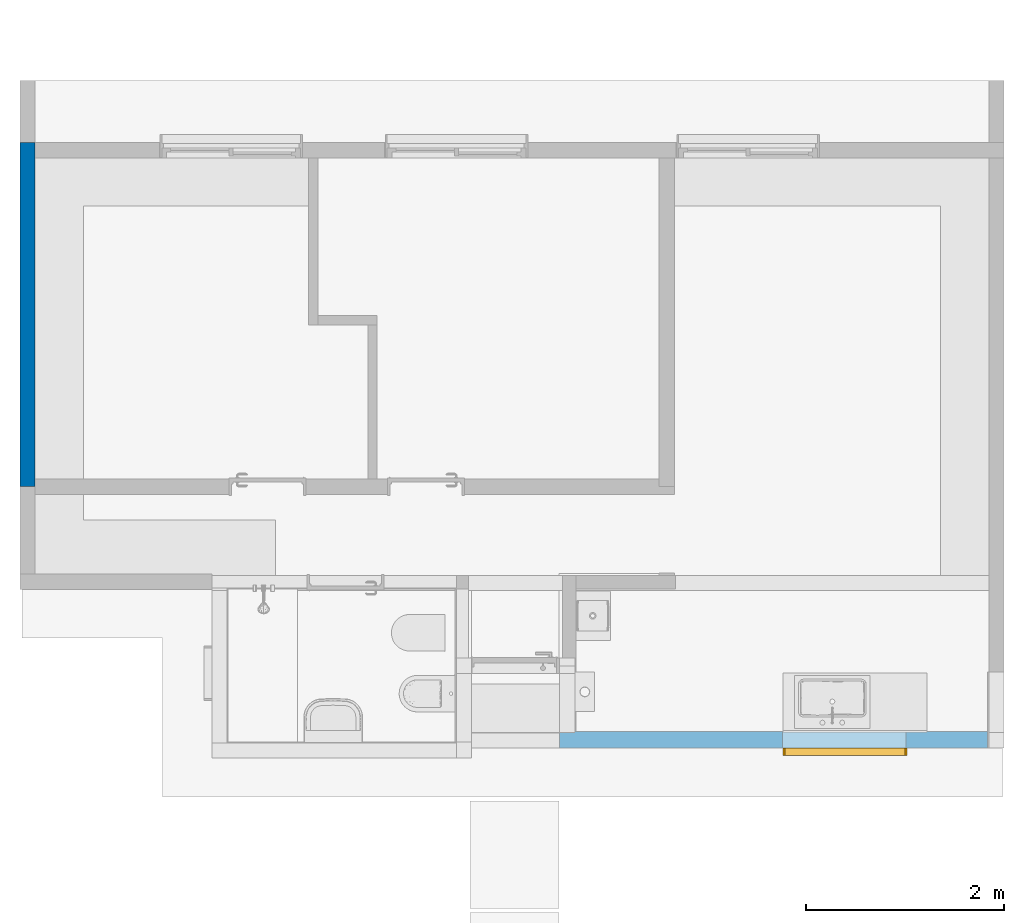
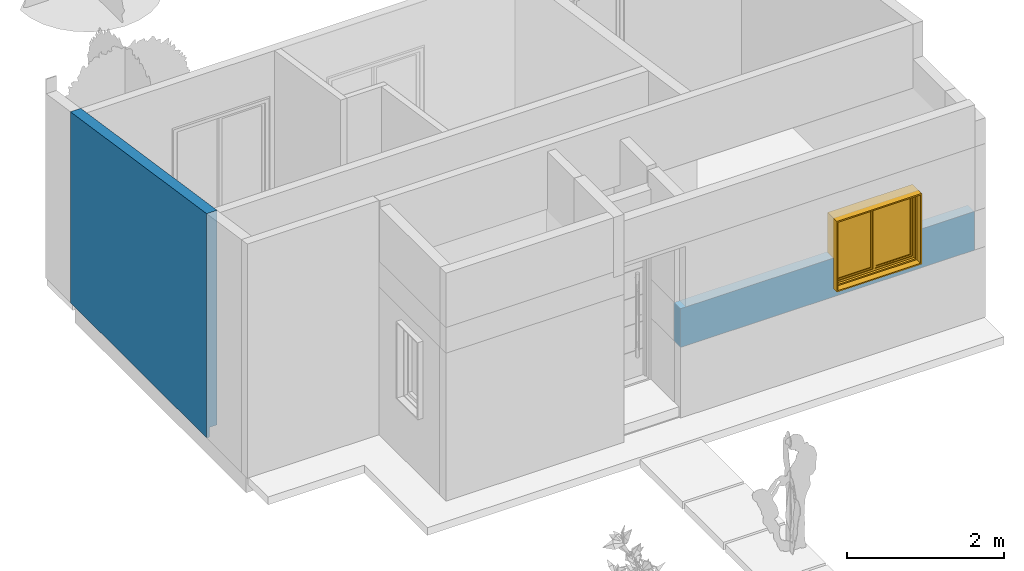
# One storey, part 4 of 8: 1 wall, 1 window, 1 opening, plus 1 element that does not belong to this part.
"""IFC2X3 building model written with IfcOpenShell, lengths in metres."""

from ifc_helpers import new_model, entity, si_unit, converted_unit, derived_unit, direction, frame, frame_2d, origin, place, context, subcontext, project, spatial, rectangle, extrude, faceted_brep, source, transform, mapped, material, material_list, layer, layer_set, layer_usage, type_object, type_shapes, element, fill, save


model = new_model("IFC2X3")

# Units and contexts
model_context = context("Model", 3, precision=1e-05, world=origin(), true_north=direction((6.12303176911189e-17, 1.0)))
body_context = subcontext(model_context, "Body", "Model", "MODEL_VIEW")
ifc_project = project(units=[si_unit("LENGTHUNIT", "METRE"), si_unit("AREAUNIT", "SQUARE_METRE"), si_unit("VOLUMEUNIT", "CUBIC_METRE"), converted_unit("PLANEANGLEUNIT", "DEGREE", entity("IfcRatioMeasure", 0.0174532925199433), si_unit("PLANEANGLEUNIT", "RADIAN"), dimensions=[0, 0, 0, 0, 0, 0, 0]), si_unit("MASSUNIT", "GRAM", prefix="KILO"), derived_unit("MASSDENSITYUNIT", [(si_unit("MASSUNIT", "GRAM", prefix="KILO"), 1), (si_unit("LENGTHUNIT", "METRE"), -3)]), si_unit("TIMEUNIT", "SECOND"), si_unit("FREQUENCYUNIT", "HERTZ"), si_unit("THERMODYNAMICTEMPERATUREUNIT", "DEGREE_CELSIUS"), derived_unit("THERMALTRANSMITTANCEUNIT", [(si_unit("MASSUNIT", "GRAM", prefix="KILO"), 1), (si_unit("THERMODYNAMICTEMPERATUREUNIT", "KELVIN"), -1), (si_unit("TIMEUNIT", "SECOND"), -3)]), derived_unit("VOLUMETRICFLOWRATEUNIT", [(si_unit("LENGTHUNIT", "METRE"), 3), (si_unit("TIMEUNIT", "SECOND"), -1)]), si_unit("ELECTRICCURRENTUNIT", "AMPERE"), si_unit("ELECTRICVOLTAGEUNIT", "VOLT"), si_unit("POWERUNIT", "WATT"), si_unit("FORCEUNIT", "NEWTON", prefix="KILO"), si_unit("ILLUMINANCEUNIT", "LUX"), si_unit("LUMINOUSFLUXUNIT", "LUMEN"), si_unit("LUMINOUSINTENSITYUNIT", "CANDELA"), derived_unit("USERDEFINED", [(si_unit("MASSUNIT", "GRAM", prefix="KILO"), -1), (si_unit("LENGTHUNIT", "METRE"), -2), (si_unit("TIMEUNIT", "SECOND"), 3), (si_unit("LUMINOUSFLUXUNIT", "LUMEN"), 1)]), derived_unit("LINEARVELOCITYUNIT", [(si_unit("LENGTHUNIT", "METRE"), 1), (si_unit("TIMEUNIT", "SECOND"), -1)]), si_unit("PRESSUREUNIT", "PASCAL"), derived_unit("USERDEFINED", [(si_unit("LENGTHUNIT", "METRE"), -2), (si_unit("MASSUNIT", "GRAM", prefix="KILO"), 1), (si_unit("TIMEUNIT", "SECOND"), -2)])], contexts=[model_context])

# Site, building, storey
site_placement = place(None, origin())
site = spatial("IfcSite", under=ifc_project, at=site_placement, Name="Surface", CompositionType="ELEMENT")
building_placement = place(site_placement, origin())
building = spatial("IfcBuilding", under=site, at=building_placement, CompositionType="ELEMENT")
storey_placement = place(building_placement, origin())
storey = spatial("IfcBuildingStorey", under=building, at=storey_placement, Name="Nivel 0.0", CompositionType="ELEMENT", Elevation=0.0)

# Wall
ifc_material_1 = material(Name="Placa cementicia")
ifc_layer_1 = layer(ifc_material_1, 0.0125)
ifc_material_2 = material(Name="Bastidor metálico")
ifc_layer_2 = layer(ifc_material_2, 0.03)
ifc_material_3 = material(Name="OSB")
ifc_layer_3 = layer(ifc_material_3, 0.011)
ifc_material_4 = material(Name="Poliestireno expandido")
ifc_layer_4 = layer(ifc_material_4, 0.046)
ifc_layer_5 = layer(ifc_material_3, 0.011)
ifc_layer_6 = layer(ifc_material_2, 0.03)
ifc_material_5 = material(Name="Placa roca de Yeso 12,5mm")
ifc_layer_7 = layer(ifc_material_5, 0.0125)
ifc_layer_set_1 = layer_set([ifc_layer_1, ifc_layer_2, ifc_layer_3, ifc_layer_4, ifc_layer_5, ifc_layer_6, ifc_layer_7], Name="Basic Wall:Pe-NW-002")
wall_type_1 = type_object("IfcWallType", Name="Basic Wall:Pe-NW-002", PredefinedType="STANDARD", material=ifc_layer_set_1)
wall_1_placement = place(storey_placement, frame((-8.91908547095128, 2.69171467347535, -0.175), z_axis=(0.0, 0.0, 1.0), x_axis=(0.0, -1.0, 0.0)))
element("IfcWall", 1, at=wall_1_placement, inside=storey, type_object=wall_type_1, Name="Basic Wall:Pe-NW-002", ObjectType="Basic Wall:Pe-NW-002", context=body_context, shape_type="Brep", body=[
    faceted_brep([(0.0, -0.0765000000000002, 0.0), (3.47393684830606, -0.0764999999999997, 0.0), (3.47393684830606, -0.0764999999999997, 3.48713225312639), (0.0, -0.0765000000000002, 2.96604172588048), (0.0, 0.0764999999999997, 2.96604172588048), (0.153, 0.0764999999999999, 2.98899172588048), (3.39668684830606, 0.0765000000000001, 3.47554475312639), (3.47393684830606, 0.0765000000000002, 3.48713225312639), (3.47393684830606, 0.0765000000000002, 0.15), (0.153, 0.0764999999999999, 0.15), (0.042500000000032, 0.0764999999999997, 0.15), (0.042500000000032, 0.0764999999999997, 0.0), (0.0, 0.0764999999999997, 0.0), (0.0, 0.0759999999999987, 2.96604172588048), (0.042500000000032, -0.0339999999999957, 0.0), (3.47393684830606, -0.0339999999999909, 0.0), (3.47393684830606, -0.0339999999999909, 0.15), (0.042500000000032, -0.0339999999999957, 0.15)], [[[0, 1, 2, 3]], [[4, 5, 6, 7, 8, 9, 10, 11, 12]], [[3, 2, 7, 6, 5, 4, 13]], [[1, 0, 12, 11, 14, 15]], [[12, 0, 3, 13, 4]], [[16, 17, 10, 9, 8]], [[14, 17, 16, 15]], [[17, 14, 11, 10]], [[7, 2, 1, 15, 16, 8]]]),
])

# Wall, opening, window
ifc_layer_8 = layer(ifc_material_1, 0.0125)
ifc_layer_9 = layer(ifc_material_2, 0.03)
ifc_layer_10 = layer(ifc_material_3, 0.011)
ifc_layer_11 = layer(ifc_material_4, 0.046)
ifc_layer_12 = layer(ifc_material_3, 0.011)
ifc_layer_13 = layer(ifc_material_2, 0.03)
ifc_layer_14 = layer(ifc_material_5, 0.012)
ifc_material_6 = material(Name="Revestimiento Cerámico muro")
ifc_layer_15 = layer(ifc_material_6, 0.012)
ifc_layer_set_2 = layer_set([ifc_layer_8, ifc_layer_9, ifc_layer_10, ifc_layer_11, ifc_layer_12, ifc_layer_13, ifc_layer_14, ifc_layer_15], Name="Basic Wall:Pe-NW-003")
ifc_layer_usage = layer_usage(ifc_layer_set_2, "AXIS2", "POSITIVE", -0.08225)
wall_type_2 = type_object("IfcWallType", Name="Basic Wall:Pe-NW-003", PredefinedType="STANDARD", material=ifc_layer_set_2)
wall_2_placement = place(storey_placement, frame((-3.54801368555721, -3.33603532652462, 0.925)))
wall_2 = element("IfcWallStandardCase", 2, at=wall_2_placement, inside=storey, type_object=wall_type_2, material=ifc_layer_usage, Name="Basic Wall:Pe-NW-003", ObjectType="Basic Wall:Pe-NW-003", context=body_context, shape_type="SweptSolid", body=[
    extrude(rectangle(XDim=4.32092821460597, YDim=0.164500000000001, at=frame_2d((2.16046410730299, 6.93889390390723e-18), x_axis=(-1.0, 0.0))), origin(), (0.0, 0.0, 1.0), 0.6),
])
opening_placement = place(wall_2_placement, frame((3.49745223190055, 0.0822499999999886, 0.115)))
opening = element("IfcOpeningElement", 3, at=opening_placement, cuts=wall_2, Name="Ventana1,20x1.20:V1:1", ObjectType="Opening", context=body_context, shape_type="SweptSolid", body=[
    extrude(rectangle(XDim=1.1, YDim=1.25, at=frame_2d((0.55, 0.624999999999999), x_axis=(1.0, 0.0))), frame((0.0, 0.0, 0.0), z_axis=(0.0, -1.0, 0.0), x_axis=(0.0, 0.0, 1.0)), (0.0, 0.0, 1.0), 0.1645),
])
ifc_material_7 = material(Name="Chapa plegada")
ifc_material_8 = material(Name="NBS_Concept")
ifc_material_9 = material(Name="NBS_Glass_Double")
ifc_material_list_1 = material_list([ifc_material_7, ifc_material_8, ifc_material_9])
ifc_material_list_2 = material_list([ifc_material_7, ifc_material_8, ifc_material_9])
window_style = type_object("IfcWindowStyle", Name="V1", ConstructionType="OTHER_CONSTRUCTION", OperationType="DOUBLE_PANEL_VERTICAL", ParameterTakesPrecedence=False, Sizeable=False, material=ifc_material_list_2)
shared_shape = source(origin(), body_context, "Body", "Brep", [
    faceted_brep([(0.0314638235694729, 0.152250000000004, 1.062), (0.0314638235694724, 0.012250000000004, 1.062), (0.0314638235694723, 0.012250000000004, 0.0380000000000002), (0.0314638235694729, 0.152250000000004, 0.0380000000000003), (-0.00653617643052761, 0.0122500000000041, 0.0), (1.24346382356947, 0.0122500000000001, 0.0), (1.24346382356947, 0.0122500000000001, 1.1), (-0.00653617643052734, 0.0122500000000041, 1.1), (1.20546382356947, 0.0122500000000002, 1.062), (1.20546382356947, 0.0122500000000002, 0.0380000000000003), (1.20546382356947, 0.15225, 0.0380000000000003), (1.20546382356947, 0.15225, 1.062), (0.0124638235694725, 0.152250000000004, 1.081), (1.22446382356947, 0.15225, 1.081), (1.22446382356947, 0.15225, 0.0190000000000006), (0.0124638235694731, 0.152250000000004, 0.0190000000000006), (0.0124638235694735, 0.247250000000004, 1.081), (0.0124638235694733, 0.247250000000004, 0.0190000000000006), (1.22446382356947, 0.24725, 0.0190000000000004), (1.22446382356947, 0.24725, 1.081), (-0.00653617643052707, 0.247250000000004, 1.1), (1.24346382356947, 0.24725, 1.1), (1.24346382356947, 0.24725, 0.0), (-0.00653617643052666, 0.247250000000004, 0.0)], [[[0, 1, 2, 3]], [[4, 5, 6, 7], [1, 8, 9, 2]], [[3, 2, 9, 10]], [[3, 10, 11, 0], [12, 13, 14, 15]], [[16, 12, 15, 17]], [[17, 15, 14, 18]], [[17, 18, 19, 16], [20, 21, 22, 23]], [[7, 20, 23, 4]], [[4, 23, 22, 5]], [[10, 9, 8, 11]], [[18, 14, 13, 19]], [[5, 22, 21, 6]], [[11, 8, 1, 0]], [[19, 13, 12, 16]], [[6, 21, 20, 7]]], outer=[[True], [True, False], [True], [False, True], [True], [True], [False, True], [True], [True], [True], [True], [True], [True], [True], [True]]),
    faceted_brep([(0.638416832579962, 0.119500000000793, 0.0699999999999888), (0.638416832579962, 0.0395000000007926, 0.0699999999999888), (0.608416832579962, 0.0395000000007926, 0.0699999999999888), (0.608416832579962, 0.119500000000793, 0.0699999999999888), (0.638416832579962, 0.119500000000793, 1.02499999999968), (0.638416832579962, 0.0395000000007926, 1.02499999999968), (0.608416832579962, 0.0395000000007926, 1.02499999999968), (0.608416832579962, 0.119500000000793, 1.02499999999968)], [[[0, 1, 2, 3]], [[4, 5, 1, 0]], [[5, 6, 2, 1]], [[6, 7, 3, 2]], [[7, 4, 0, 3]], [[4, 7, 6, 5]]]),
    faceted_brep([(0.64641683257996, 0.0955000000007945, 0.0779999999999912), (1.18041683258, 0.0955000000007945, 0.0779999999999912), (1.18041683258, 0.0635000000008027, 0.0779999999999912), (0.64641683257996, 0.0635000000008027, 0.0779999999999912), (0.646416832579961, 0.0955000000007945, 1.01699999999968), (0.64641683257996, 0.0635000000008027, 1.01699999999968), (1.18041683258, 0.0635000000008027, 1.01699999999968), (1.18041683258, 0.0955000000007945, 1.01699999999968)], [[[0, 1, 2, 3]], [[4, 0, 3, 5]], [[5, 3, 2, 6]], [[6, 2, 1, 7]], [[7, 1, 0, 4]], [[4, 5, 6, 7]]]),
    faceted_brep([(0.638416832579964, 0.109500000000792, 1.02499999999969), (0.638416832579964, 0.109500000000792, 0.069999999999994), (0.638416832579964, 0.0495000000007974, 0.069999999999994), (0.638416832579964, 0.0495000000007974, 1.02499999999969), (0.661416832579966, 0.0495000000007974, 1.00199999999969), (1.16541683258, 0.0495000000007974, 1.00199999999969), (1.16541683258, 0.0495000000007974, 0.0929999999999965), (0.661416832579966, 0.0495000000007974, 0.0929999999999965), (1.18841683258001, 0.0495000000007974, 1.02499999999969), (1.18841683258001, 0.0495000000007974, 0.069999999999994), (1.18841683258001, 0.109500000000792, 0.0699999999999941), (1.18841683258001, 0.109500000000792, 1.02499999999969), (1.16541683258, 0.109500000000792, 1.00199999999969), (0.661416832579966, 0.109500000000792, 1.00199999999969), (0.661416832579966, 0.109500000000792, 0.0929999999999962), (1.16541683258, 0.109500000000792, 0.0929999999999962), (0.661416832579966, 0.0955000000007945, 1.00199999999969), (0.661416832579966, 0.0955000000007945, 0.0929999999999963), (1.16541683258, 0.0955000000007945, 0.0929999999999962), (1.16541683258, 0.0955000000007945, 1.00199999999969), (1.18041683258, 0.0955000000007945, 1.01699999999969), (0.646416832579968, 0.0955000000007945, 1.01699999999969), (0.646416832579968, 0.0955000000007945, 0.077999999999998), (1.18041683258, 0.0955000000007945, 0.077999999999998), (0.646416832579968, 0.0635000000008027, 1.01699999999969), (0.646416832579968, 0.0635000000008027, 0.0779999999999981), (1.18041683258, 0.0635000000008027, 0.077999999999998), (1.18041683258, 0.0635000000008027, 1.01699999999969), (1.16541683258, 0.0635000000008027, 1.00199999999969), (0.661416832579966, 0.0635000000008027, 1.00199999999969), (0.661416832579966, 0.0635000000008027, 0.0929999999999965), (1.16541683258, 0.0635000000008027, 0.0929999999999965)], [[[0, 1, 2, 3]], [[4, 5, 6, 7], [8, 3, 2, 9]], [[1, 10, 9, 2]], [[0, 11, 10, 1], [12, 13, 14, 15]], [[16, 17, 14, 13]], [[17, 18, 15, 14]], [[16, 19, 18, 17], [20, 21, 22, 23]], [[24, 25, 22, 21]], [[25, 26, 23, 22]], [[24, 27, 26, 25], [28, 29, 30, 31]], [[4, 7, 30, 29]], [[7, 6, 31, 30]], [[10, 11, 8, 9]], [[18, 19, 12, 15]], [[26, 27, 20, 23]], [[6, 5, 28, 31]], [[11, 0, 3, 8]], [[19, 16, 13, 12]], [[27, 24, 21, 20]], [[5, 4, 29, 28]]], outer=[[True], [False, True], [True], [True, False], [True], [True], [False, True], [True], [True], [True, False], [True], [True], [True], [True], [True], [True], [True], [True], [True], [True]]),
    faceted_brep([(0.600416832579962, 0.0955000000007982, 0.0779999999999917), (0.600416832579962, 0.0635000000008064, 0.0779999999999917), (0.0664168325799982, 0.0635000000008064, 0.0779999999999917), (0.0664168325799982, 0.0955000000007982, 0.0779999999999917), (0.600416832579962, 0.0955000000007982, 1.01699999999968), (0.600416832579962, 0.0635000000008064, 1.01699999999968), (0.0664168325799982, 0.0635000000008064, 1.01699999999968), (0.0664168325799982, 0.0955000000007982, 1.01699999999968)], [[[0, 1, 2, 3]], [[4, 5, 1, 0]], [[5, 6, 2, 1]], [[6, 7, 3, 2]], [[7, 4, 0, 3]], [[4, 7, 6, 5]]]),
    faceted_brep([(0.608416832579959, 0.109500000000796, 1.02499999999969), (0.608416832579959, 0.049500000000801, 1.02499999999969), (0.608416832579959, 0.049500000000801, 0.0699999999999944), (0.608416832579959, 0.109500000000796, 0.0699999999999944), (0.585416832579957, 0.049500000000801, 1.00199999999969), (0.585416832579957, 0.049500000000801, 0.0929999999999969), (0.0814168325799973, 0.049500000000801, 0.0929999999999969), (0.0814168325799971, 0.049500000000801, 1.00199999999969), (0.0584168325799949, 0.049500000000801, 1.02499999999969), (0.0584168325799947, 0.049500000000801, 0.0699999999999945), (0.0584168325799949, 0.109500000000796, 0.0699999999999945), (0.0584168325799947, 0.109500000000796, 1.02499999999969), (0.081416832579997, 0.109500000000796, 1.00199999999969), (0.081416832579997, 0.109500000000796, 0.0929999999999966), (0.585416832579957, 0.109500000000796, 0.0929999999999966), (0.585416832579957, 0.109500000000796, 1.00199999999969), (0.585416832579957, 0.0955000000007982, 1.00199999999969), (0.585416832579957, 0.0955000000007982, 0.0929999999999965), (0.081416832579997, 0.0955000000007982, 0.0929999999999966), (0.0814168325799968, 0.0955000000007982, 1.00199999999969), (0.0664168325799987, 0.0955000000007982, 1.01699999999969), (0.0664168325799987, 0.0955000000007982, 0.0779999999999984), (0.600416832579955, 0.0955000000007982, 0.0779999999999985), (0.600416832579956, 0.0955000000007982, 1.01699999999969), (0.600416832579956, 0.0635000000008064, 1.01699999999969), (0.600416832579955, 0.0635000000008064, 0.0779999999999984), (0.0664168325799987, 0.0635000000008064, 0.0779999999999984), (0.0664168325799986, 0.0635000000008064, 1.01699999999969), (0.0814168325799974, 0.0635000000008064, 1.00199999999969), (0.0814168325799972, 0.0635000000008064, 0.0929999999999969), (0.585416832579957, 0.0635000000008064, 0.0929999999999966), (0.585416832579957, 0.0635000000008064, 1.00199999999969)], [[[0, 1, 2, 3]], [[4, 5, 6, 7], [8, 9, 2, 1]], [[3, 2, 9, 10]], [[0, 3, 10, 11], [12, 13, 14, 15]], [[16, 15, 14, 17]], [[17, 14, 13, 18]], [[16, 17, 18, 19], [20, 21, 22, 23]], [[24, 23, 22, 25]], [[25, 22, 21, 26]], [[24, 25, 26, 27], [28, 29, 30, 31]], [[4, 31, 30, 5]], [[5, 30, 29, 6]], [[10, 9, 8, 11]], [[18, 13, 12, 19]], [[26, 21, 20, 27]], [[6, 29, 28, 7]], [[11, 8, 1, 0]], [[19, 12, 15, 16]], [[27, 20, 23, 24]], [[7, 28, 31, 4]]], outer=[[True], [False, True], [True], [True, False], [True], [True], [False, True], [True], [True], [True, False], [True], [True], [True], [True], [True], [True], [True], [True], [True], [True]]),
    faceted_brep([(1.18841683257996, 0.039500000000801, 1.02499999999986), (1.18841683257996, 0.119500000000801, 1.02499999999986), (1.18841683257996, 0.119500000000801, 0.0700000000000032), (1.18841683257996, 0.039500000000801, 0.0700000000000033), (1.21841683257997, 0.119500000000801, 1.05499999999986), (1.21841683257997, 0.119500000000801, 0.0400000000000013), (0.0284168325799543, 0.119500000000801, 0.0400000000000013), (0.0284168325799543, 0.119500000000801, 1.05499999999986), (0.0584168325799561, 0.119500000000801, 1.02499999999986), (0.0584168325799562, 0.119500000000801, 0.0700000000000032), (0.0584168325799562, 0.039500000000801, 0.0700000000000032), (0.0584168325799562, 0.039500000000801, 1.02499999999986), (0.0284168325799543, 0.039500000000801, 1.05499999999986), (0.0284168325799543, 0.039500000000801, 0.0400000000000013), (1.21841683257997, 0.039500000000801, 0.0400000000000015), (1.21841683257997, 0.039500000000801, 1.05499999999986)], [[[0, 1, 2, 3]], [[4, 5, 6, 7], [8, 9, 2, 1]], [[3, 2, 9, 10]], [[0, 3, 10, 11], [12, 13, 14, 15]], [[4, 15, 14, 5]], [[5, 14, 13, 6]], [[10, 9, 8, 11]], [[6, 13, 12, 7]], [[11, 8, 1, 0]], [[7, 12, 15, 4]]], outer=[[True], [True, False], [True], [False, True], [True], [True], [True], [True], [True], [True]]),
])
type_shapes(window_style, [shared_shape])
window_placement = place(opening_placement, frame((0.0, 0.00500000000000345, 0.0), z_axis=(0.0, 0.0, 1.0), x_axis=(-1.0, 0.0, 0.0)))
window = element("IfcWindow", 4, at=window_placement, inside=storey, type_object=window_style, material=ifc_material_list_1, Name="Ventana1,20x1.20:V1", ObjectType="Ventana1,20x1.20:V1", OverallHeight=1.1, OverallWidth=1.25, context=body_context, shape_type="MappedRepresentation", body=[
    mapped(shared_shape, transform((0.0, 0.0, 0.0), scale=1.0)),
])
fill(opening, window)

save(model, "model.ifc")
